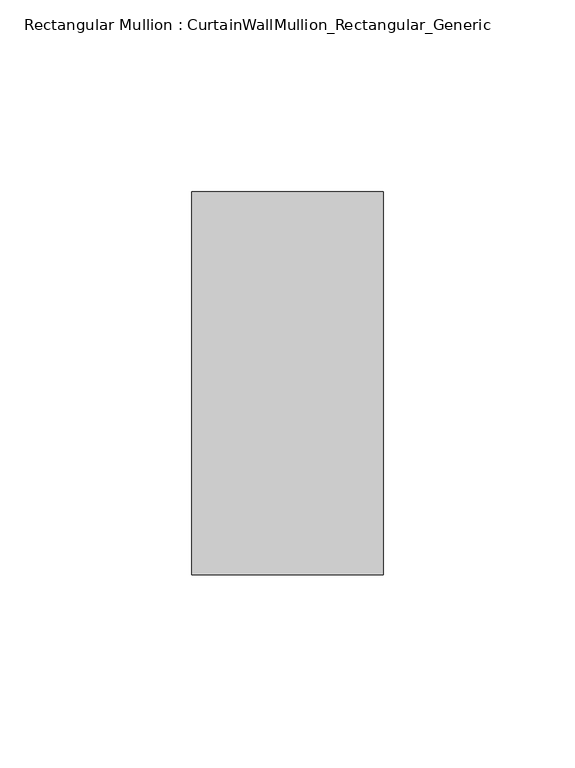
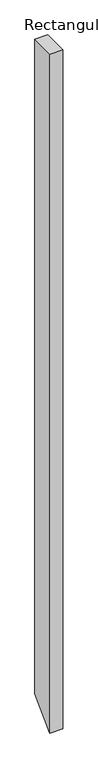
"""IFC4 building model written with IfcOpenShell, lengths in millimetres: member geometry, Rectangular Mullion : CurtainWallMullion_Rectangular_Generic."""

from ifc_helpers import new_model, si_unit, frame, origin, place, context, project, spatial, polyline, outline, extrude, source, transform, mapped, element, save


def rectangular_mullion_curtainwallmullion_rectangular_generic_5eb3c60d(model_context):
    return source(origin(), model_context, "Body", "SweptSolid", [
        extrude(outline(polyline([(-50.0, 0.0), (50.0, 0.0), (50.0, -2677.0000001), (-50.0, -2777.0000001), (-50.0, 0.0)])), frame((-50.0, 0.0, 0.0), z_axis=(1.0, 0.0, 0.0), x_axis=(0.0, 1.0, 0.0)), (0.0, 0.0, 1.0), 50.0),
    ])


if __name__ == "__main__":
    model = new_model("IFC4")
    model_context = context("Model", 3, world=origin())
    ifc_project = project(units=[si_unit("LENGTHUNIT", "METRE", prefix="MILLI")], contexts=[model_context])
    site = spatial("IfcSite", under=ifc_project)
    building = spatial("IfcBuilding", under=site)
    placement = place(None, origin())
    rectangular_mullion_curtainwallmullion_rectangular_generic_shape = rectangular_mullion_curtainwallmullion_rectangular_generic_5eb3c60d(model_context)
    element("IfcMember", 1, ObjectType="Rectangular Mullion : CurtainWallMullion_Rectangular_Generic", at=placement, inside=building, context=model_context, shape_type="MappedRepresentation", body=[
        mapped(rectangular_mullion_curtainwallmullion_rectangular_generic_shape, transform((0.0, 0.0, 0.0), x_axis=(1.0, 0.0, 0.0), y_axis=(0.0, 1.0, 0.0), z_axis=(0.0, 0.0, 1.0))),
    ])
    save(model, "model.ifc")
